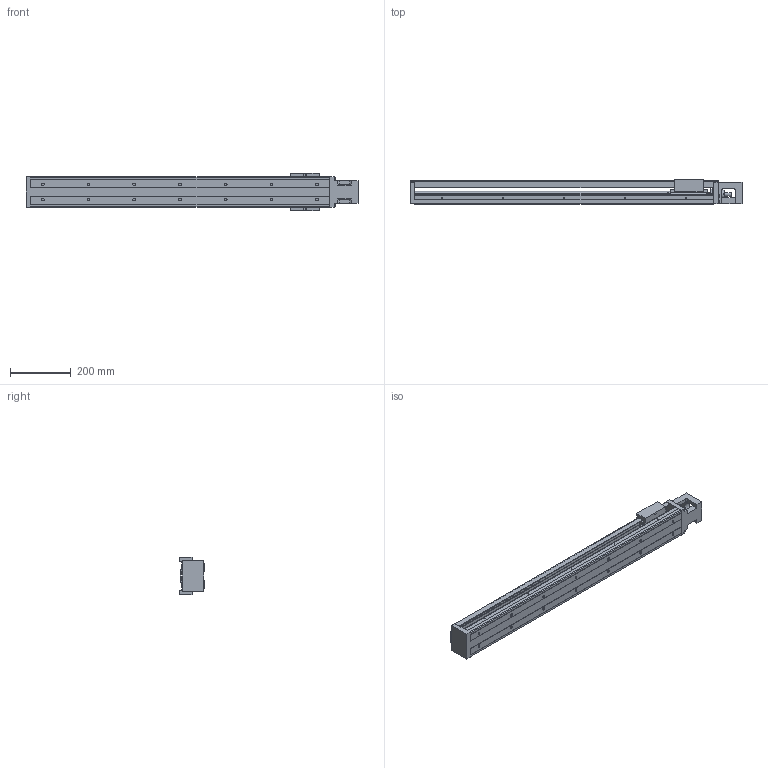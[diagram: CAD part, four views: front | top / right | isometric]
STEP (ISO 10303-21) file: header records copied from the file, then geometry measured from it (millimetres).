
FILE_DESCRIPTION( ( '' ), '1' );
FILE_NAME( '//partserver001.servicenet/client_exchange/iodir/jobs/output/wkb20113516_no0/STEP/kk10020p_980a1_f0c_2_03.stp', '2009-11-12T12:44:08', ( '' ), ( '' ), ' ', ' ', ' ' );
FILE_SCHEMA( ( 'CONFIG_CONTROL_DESIGN' ) );
Length unit declared in the file: millimetre
Products named in the file (5): 1; 2; 3; 4; 5
Bounding box: 1089 x 80 x 124 mm (x, y, z)
Volume: 3271378.8 mm3; surface area: 806745.1 mm2
Topology: 5 solids, 5 shells, 610 faces, 1552 edges, 962 vertices
Faces by surface type: plane 243, cylinder 219, cone 140, torus 8
Entity records: 18326 total; most frequent: DIRECTION 3276, CARTESIAN_POINT 3133, ORIENTED_EDGE 2976, EDGE_CURVE 1488, AXIS2_PLACEMENT_3D 1177, VERTEX_POINT 962, LINE 922, VECTOR 922
